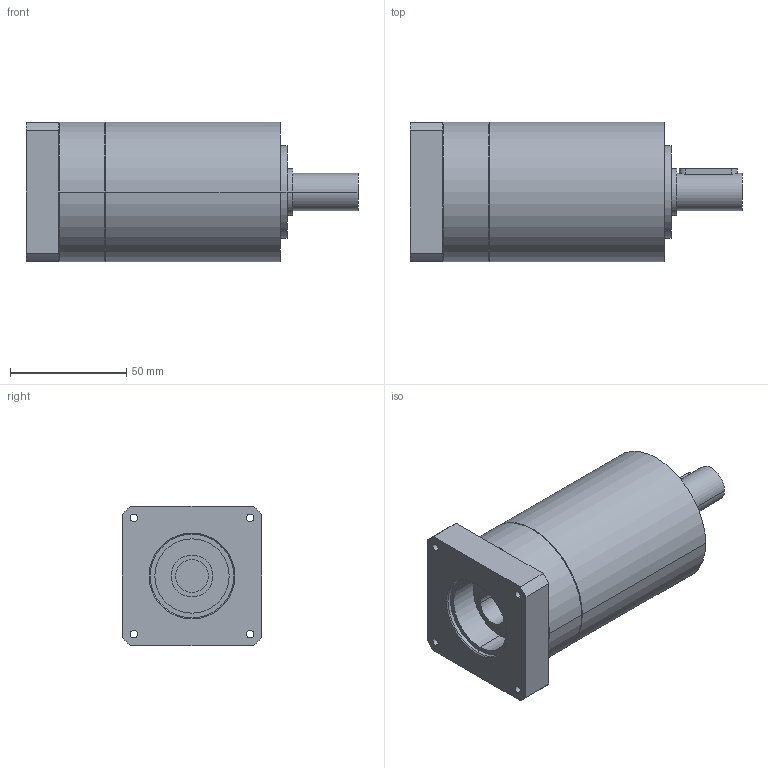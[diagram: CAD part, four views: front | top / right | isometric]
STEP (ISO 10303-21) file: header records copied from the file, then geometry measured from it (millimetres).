
FILE_DESCRIPTION(('CoCreate Modeling STEP Export'),'2;1');
FILE_NAME('GPR75_ig-9-12-16-20-24-30-36_16_B14_14_P35.stp','2014-08-25T16:03:44',(''),(''),'CoCreate Modeling STEP processor for AP214 (Solid Model)','CoCreate Modeling 16.00C 25-Feb-2009 (C) Parametric Technology GmbH','');
FILE_SCHEMA(('AUTOMOTIVE_DESIGN { 1 0 10303 214 1 1 1 1 }'));
Length unit declared in the file: millimetre
Products named in the file (2): GPR75_ig-9-12-16-20-24-30-36_16_B14_14_P35
Assembly tree (1 placements, depth 2):
  GPR75_ig-9-12-16-20-24-30-36_16_B14_14_P35
    GPR75_ig-9-12-16-20-24-30-36_16_B14_14_P35
Bounding box: 142.9 x 60 x 60 mm (x, y, z)
Volume: 313829.7 mm3; surface area: 34828.8 mm2
Topology: 1 solids, 1 shells, 72 faces, 188 edges, 130 vertices
Faces by surface type: cylinder 42, plane 22, cone 8
Entity records: 1959 total; most frequent: ORIENTED_EDGE 372, CARTESIAN_POINT 362, DIRECTION 268, EDGE_CURVE 186, VERTEX_POINT 130, AXIS2_PLACEMENT_3D 100, EDGE_LOOP 94, FACE_OUTER_BOUND 72
